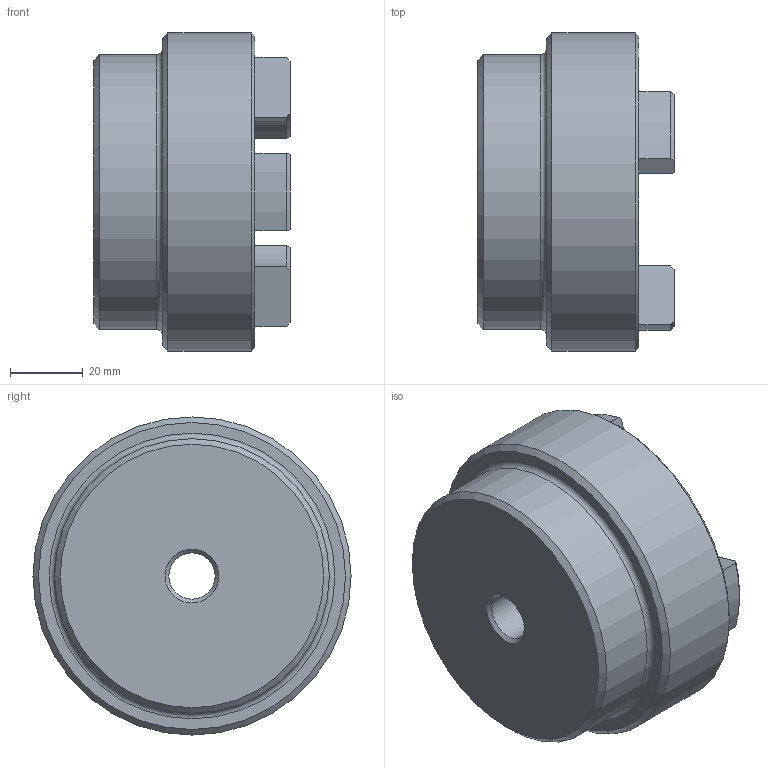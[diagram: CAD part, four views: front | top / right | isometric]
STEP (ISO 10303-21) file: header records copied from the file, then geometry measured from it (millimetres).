
FILE_DESCRIPTION (( 'STEP AP203' ), '1' );
FILE_NAME ('RC3.step', '2024-07-24T12:54:57', ( 'Adlan' ), ( '' ), 'SwSTEP 2.0', 'SolidWorks 2013', '' );
FILE_SCHEMA (( 'CONFIG_CONTROL_DESIGN' ));
Length unit declared in the file: inch
Products named in the file (1): RC3
Bounding box: 53.85 x 87.38 x 87.38 mm (x, y, z)
Volume: 192629 mm3; surface area: 29147.2 mm2
Topology: 1 solids, 1 shells, 60 faces, 146 edges, 90 vertices
Faces by surface type: cylinder 24, plane 13, torus 13, cone 10
Full cylindrical faces by diameter (mm): 12.708 x1, 75.438 x1, 87.376 x1
Entity records: 1841 total; most frequent: CARTESIAN_POINT 341, DIRECTION 324, ORIENTED_EDGE 274, EDGE_CURVE 137, AXIS2_PLACEMENT_3D 132, VERTEX_POINT 89, EDGE_LOOP 72, CIRCLE 71
